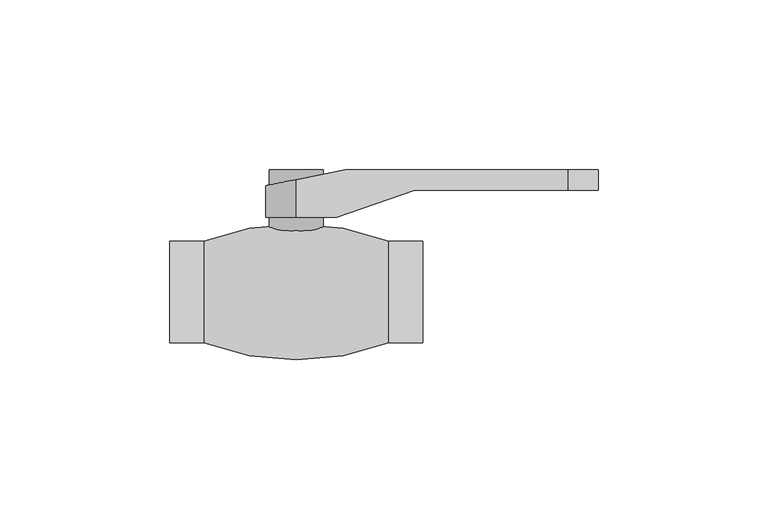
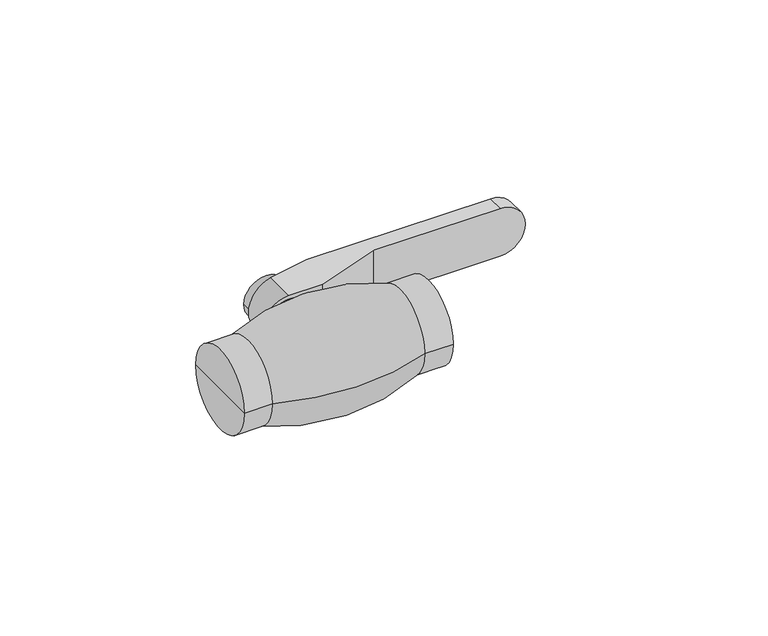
"""IFC4 building model written with IfcOpenShell, lengths in millimetres: valve geometry, KAN-therm PP zawór kulowy : KAN-therm PP zawór kulowy."""

from ifc_helpers import new_model, si_unit, point, frame, origin, place, context, project, spatial, circle_curve, ellipse_curve, trimmed, source, transform, mapped, element, save
from ifc_brep_helpers import plane_surface, cylinder_surface, revolved_surface, advanced_brep


def valve_e2585b80(model_context):
    return source(origin(), model_context, "Body", "AdvancedBrep", [
        advanced_brep(
        [(0.0, 22.0, 9.0), (0.0, 22.0, -9.0), (11.9617259, 22.0, -9.0), (11.9617259, 22.0, 9.0), (80.0, 36.0, 9.0), (80.0, 36.0, -9.0), (14.4302068, 36.0, -9.0), (14.4302068, 36.0, 9.0), (35.0, 30.0, 9.0), (80.0, 30.0, 9.0), (0.0, 33.1139586, 9.0), (89.0, 30.0, 0.0), (80.0, 30.0, -9.0), (0.0, 33.1139586, -9.0), (35.0, 30.0, -9.0), (-9.0, 31.3139586, 0.0)],
        [
            (0, 1, circle_curve(frame((0.0, 22.0, 0.0), z_axis=(0.0, -1.0, 0.0), x_axis=(-1.0, 0.0, 0.0)), 9.0)),
            (1, 2),
            (2, 3),
            (3, 0),
            (4, 5, circle_curve(frame((80.0, 36.0, 0.0), z_axis=(0.0, 1.0, 0.0), x_axis=(-1.0, 0.0, 0.0)), 9.0)),
            (5, 6),
            (6, 7),
            (7, 4),
            (3, 8),
            (8, 9),
            (9, 4),
            (7, 10),
            (10, 0),
            (9, 11, circle_curve(frame((80.0, 30.0, 0.0), z_axis=(0.0, 1.0, 0.0), x_axis=(-1.0, 0.0, 0.0)), 9.0)),
            (11, 12, circle_curve(frame((80.0, 30.0, 0.0), z_axis=(0.0, 1.0, 0.0), x_axis=(-1.0, 0.0, 0.0)), 9.0)),
            (12, 5),
            (1, 13),
            (13, 6),
            (12, 14),
            (14, 2),
            (13, 15, ellipse_curve(frame((0.0, 33.1139586, 0.0), z_axis=(-0.1961161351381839, 0.9805806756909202, 0.0), x_axis=(0.9805806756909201, 0.19611613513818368, 0.0)), 9.1782351, 9.0)),
            (15, 10, ellipse_curve(frame((0.0, 33.1139586, 0.0), z_axis=(-0.1961161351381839, 0.9805806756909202, 0.0), x_axis=(0.9805806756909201, 0.19611613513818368, 0.0)), 9.1782351, 9.0)),
            (8, 14),
        ],
        [
            plane_surface(frame((0.0, 22.0, -9.0), z_axis=(0.0, -1.0, 0.0), x_axis=(1.0, 0.0, 0.0))),
            plane_surface(frame((0.0, 36.0, -9.0), z_axis=(0.0, 1.0, 0.0), x_axis=(-1.0, 0.0, 0.0))),
            plane_surface(frame((0.0, 36.0, 9.0), z_axis=(0.0, 0.0, 1.0), x_axis=(0.0, -1.0, 0.0))),
            cylinder_surface(frame((80.0, 22.0, 0.0), z_axis=(0.0, 1.0, 0.0), x_axis=(-1.0, 0.0, 0.0)), 9.0),
            plane_surface(frame((80.0, 36.0, -9.0), z_axis=(0.0, 0.0, -1.0), x_axis=(0.0, -1.0, 0.0))),
            plane_surface(frame((-9.0, 31.3139586, 10.0), z_axis=(-0.1961161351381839, 0.9805806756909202, 0.0), x_axis=(0.0, 0.0, -1.0))),
            plane_surface(frame((89.0, 30.0, 10.0), z_axis=(0.0, -1.0, 0.0), x_axis=(0.0, 0.0, -1.0))),
            cylinder_surface(frame((0.0, 22.0, 0.0), z_axis=(0.0, 1.0, 0.0), x_axis=(-1.0, 0.0, 0.0)), 9.0),
            plane_surface(frame((35.0, 30.0, 10.0), z_axis=(0.3280336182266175, -0.9446660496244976, 0.0), x_axis=(0.0, 0.0, -1.0))),
        ],
        [
            (0, [[1, 2, 3, 4]]),
            (1, [[5, 6, 7, 8]]),
            (2, [[-4, 9, 10, 11, -8, 12, 13]]),
            (3, [[-5, -11, 14, 15, 16]]),
            (4, [[-2, 17, 18, -6, -16, 19, 20]]),
            (5, [[-7, -18, 21, 22, -12]]),
            (6, [[23, -19, -15, -14, -10]]),
            (7, [[-1, -13, -22, -21, -17]]),
            (8, [[-23, -9, -3, -20]]),
        ],
    ),
        advanced_brep(
        [(-8.0, 36.0, 0.0), (8.0, 36.0, 0.0), (8.0, 15.0, 0.0), (-8.0, 15.0, 0.0), (0.0, 36.0, 0.0), (0.0, 15.0, 0.0)],
        [
            (0, 1, circle_curve(frame((0.0, 36.0, 0.0), z_axis=(0.0, -1.0, 0.0), x_axis=(1.0, 0.0, 0.0)), 8.0)),
            (1, 2),
            (2, 3, circle_curve(frame((0.0, 15.0, 0.0), z_axis=(0.0, 1.0, 0.0), x_axis=(1.0, 0.0, 0.0)), 8.0)),
            (3, 0),
            (1, 0, circle_curve(frame((0.0, 36.0, 0.0), z_axis=(0.0, -1.0, 0.0), x_axis=(1.0, 0.0, 0.0)), 8.0)),
            (3, 2, circle_curve(frame((0.0, 15.0, 0.0), z_axis=(0.0, 1.0, 0.0), x_axis=(1.0, 0.0, 0.0)), 8.0)),
            (4, 1),
            (0, 4),
            (2, 5),
            (5, 3),
        ],
        [
            cylinder_surface(frame((0.0, 1993.0, 0.0), z_axis=(0.0, 1.0, 0.0), x_axis=(1.0, 0.0, 0.0)), 8.0),
            plane_surface(frame((0.0, 36.0, 0.0), z_axis=(0.0, 1.0, 0.0), x_axis=(1.0, 0.0, 0.0))),
            plane_surface(frame((0.0, 15.0, 0.0), z_axis=(0.0, -1.0, 0.0), x_axis=(1.0, 0.0, 0.0))),
        ],
        [
            (0, [[1, 2, 3, 4]]),
            (0, [[5, -4, 6, -2]]),
            (1, [[7, -1, 8]]),
            (1, [[-8, -5, -7]]),
            (2, [[-3, 9, 10]]),
            (2, [[-6, -10, -9]]),
        ],
    ),
        advanced_brep(
        [(37.25, 0.0, 0.0), (37.25, -15.0, 0.0), (37.25, 15.0, 0.0), (-37.25, 15.0, 0.0), (-37.25, -15.0, 0.0), (-37.25, 0.0, 0.0), (-27.25, 15.0, 0.0), (-27.25, -15.0, 0.0), (27.25, -15.0, 0.0), (27.25, 15.0, 0.0)],
        [
            (0, 1),
            (1, 2, circle_curve(frame((37.25, 0.0, 0.0), z_axis=(1.0, 0.0, 0.0), x_axis=(0.0, -1.0, 0.0)), 15.0)),
            (2, 0),
            (2, 1, circle_curve(frame((37.25, 0.0, 0.0), z_axis=(1.0, 0.0, 0.0), x_axis=(0.0, -1.0, 0.0)), 15.0)),
            (3, 4, circle_curve(frame((-37.25, 0.0, 0.0), z_axis=(-1.0, 0.0, 0.0), x_axis=(0.0, -1.0, 0.0)), 15.0)),
            (4, 5),
            (5, 3),
            (4, 3, circle_curve(frame((-37.25, 0.0, 0.0), z_axis=(-1.0, 0.0, 0.0), x_axis=(0.0, -1.0, 0.0)), 15.0)),
            (6, 7, circle_curve(frame((-27.25, 0.0, 0.0), z_axis=(-1.0, 0.0, 0.0), x_axis=(0.0, -1.0, 0.0)), 15.0)),
            (7, 4),
            (3, 6),
            (7, 6, circle_curve(frame((-27.25, 0.0, 0.0), z_axis=(-1.0, 0.0, 0.0), x_axis=(0.0, -1.0, 0.0)), 15.0)),
            (1, 8),
            (8, 9, circle_curve(frame((27.25, 0.0, 0.0), z_axis=(1.0, 0.0, 0.0), x_axis=(0.0, -1.0, 0.0)), 15.0)),
            (9, 2),
            (9, 8, circle_curve(frame((27.25, 0.0, 0.0), z_axis=(1.0, 0.0, 0.0), x_axis=(0.0, -1.0, 0.0)), 15.0)),
            (8, 7, circle_curve(frame((0.0, 56.75625, 0.0), z_axis=(0.0, 0.0, -1.0), x_axis=(1.0, 0.0, 0.0)), 76.75625)),
            (6, 9, circle_curve(frame((0.0, -56.75625, 0.0), z_axis=(0.0, 0.0, -1.0), x_axis=(1.0, 0.0, 0.0)), 76.75625)),
        ],
        [
            plane_surface(frame((37.25, 0.0, 0.0), z_axis=(1.0, 0.0, 0.0), x_axis=(0.0, -1.0, 0.0))),
            plane_surface(frame((-37.25, 0.0, 0.0), z_axis=(-1.0, 0.0, 0.0), x_axis=(0.0, -1.0, 0.0))),
            cylinder_surface(frame((2009.75, 0.0, 0.0), z_axis=(1.0, 0.0, 0.0), x_axis=(0.0, -1.0, 0.0)), 15.0),
            revolved_surface(trimmed(ellipse_curve(frame((0.0, 56.75625, 0.0), z_axis=(0.0, 0.0, 1.0), x_axis=(1.0, 0.0, 0.0)), 76.75625, 76.75625), [point((-27.25, -15.0, 0.0))], [point((27.25, -15.0, 0.0))], True, "CARTESIAN"), (2009.75, 0.0, 0.0), (1.0, 0.0, 0.0)),
        ],
        [
            (0, [[1, 2, 3]]),
            (0, [[-3, 4, -1]]),
            (1, [[5, 6, 7]]),
            (1, [[8, -7, -6]]),
            (2, [[9, 10, -5, 11]]),
            (2, [[12, -11, -8, -10]]),
            (2, [[-2, 13, 14, 15]]),
            (2, [[-4, -15, 16, -13]]),
            (3, [[-14, 17, -9, 18]]),
            (3, [[-16, -18, -12, -17]]),
        ],
    ),
    ])


if __name__ == "__main__":
    model = new_model("IFC4")
    model_context = context("Model", 3, world=origin())
    ifc_project = project(units=[si_unit("LENGTHUNIT", "METRE", prefix="MILLI")], contexts=[model_context])
    site = spatial("IfcSite", under=ifc_project)
    building = spatial("IfcBuilding", under=site)
    placement = place(None, origin())
    valve_shape = valve_e2585b80(model_context)
    element("IfcValve", 1, ObjectType="KAN-therm PP zawór kulowy : KAN-therm PP zawór kulowy", at=placement, inside=building, context=model_context, shape_type="MappedRepresentation", body=[
        mapped(valve_shape, transform((0.0, 0.0, 0.0), x_axis=(1.0, 0.0, 0.0), y_axis=(0.0, 1.0, 0.0), z_axis=(0.0, 0.0, 1.0))),
    ])
    save(model, "model.ifc")
